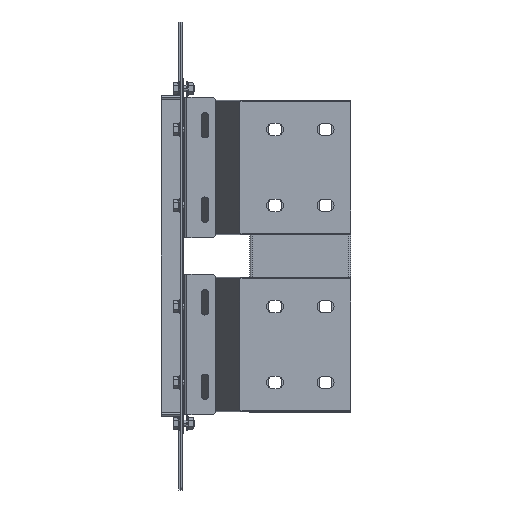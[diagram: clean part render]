
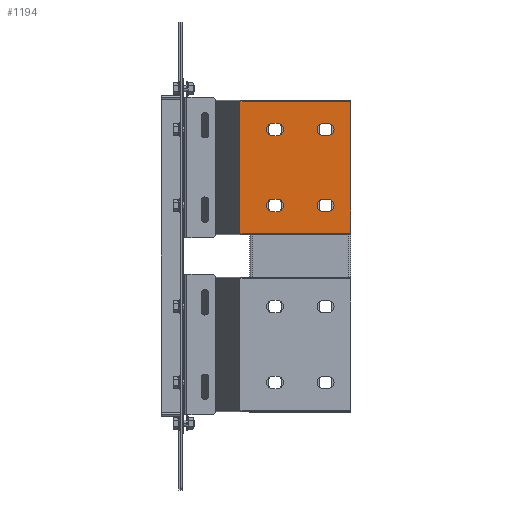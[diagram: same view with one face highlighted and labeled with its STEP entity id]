
A CAD part, front view. The second image highlights one B-rep face of the part: STEP entity #1194.
In plain terms, the highlighted planar face has unit normal (0, -1, 0).
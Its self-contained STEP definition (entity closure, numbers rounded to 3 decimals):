
#1018=AXIS2_PLACEMENT_3D('Circle Axis2P3D',#1016,#1017,$) ;
#1038=AXIS2_PLACEMENT_3D('Plane Axis2P3D',#1035,#1036,#1037) ;
#1076=AXIS2_PLACEMENT_3D('Circle Axis2P3D',#1074,#1075,$) ;
#1094=AXIS2_PLACEMENT_3D('Circle Axis2P3D',#1092,#1093,$) ;
#1110=AXIS2_PLACEMENT_3D('Circle Axis2P3D',#1108,#1109,$) ;
#1137=AXIS2_PLACEMENT_3D('Circle Axis2P3D',#1135,#1136,$) ;
#1151=AXIS2_PLACEMENT_3D('Circle Axis2P3D',#1149,#1150,$) ;
#1171=AXIS2_PLACEMENT_3D('Circle Axis2P3D',#1169,#1170,$) ;
#1185=AXIS2_PLACEMENT_3D('Circle Axis2P3D',#1183,#1184,$) ;
#982=CARTESIAN_POINT('Vertex',(112.5,-152.25,52.5)) ;
#985=CARTESIAN_POINT('Line Origine',(110.,-152.25,52.5)) ;
#989=CARTESIAN_POINT('Vertex',(107.5,-152.25,52.5)) ;
#1016=CARTESIAN_POINT('Axis2P3D Location',(107.5,-152.25,45.)) ;
#1020=CARTESIAN_POINT('Vertex',(107.5,-152.25,37.5)) ;
#1035=CARTESIAN_POINT('Axis2P3D Location',(200.,-152.25,-77.75)) ;
#1040=CARTESIAN_POINT('Line Origine',(134.254,-152.25,-77.75)) ;
#1044=CARTESIAN_POINT('Vertex',(200.,-152.25,-77.75)) ;
#1046=CARTESIAN_POINT('Vertex',(68.508,-152.25,-77.75)) ;
#1049=CARTESIAN_POINT('Line Origine',(200.,-152.25,0.)) ;
#1053=CARTESIAN_POINT('Vertex',(200.,-152.25,77.75)) ;
#1056=CARTESIAN_POINT('Line Origine',(134.254,-152.25,77.75)) ;
#1060=CARTESIAN_POINT('Vertex',(68.508,-152.25,77.75)) ;
#1063=CARTESIAN_POINT('Line Origine',(68.508,-152.25,0.)) ;
#1074=CARTESIAN_POINT('Axis2P3D Location',(112.5,-152.25,45.)) ;
#1078=CARTESIAN_POINT('Vertex',(112.5,-152.25,37.5)) ;
#1081=CARTESIAN_POINT('Line Origine',(110.,-152.25,37.5)) ;
#1092=CARTESIAN_POINT('Axis2P3D Location',(167.5,-152.25,45.)) ;
#1096=CARTESIAN_POINT('Vertex',(167.5,-152.25,52.5)) ;
#1098=CARTESIAN_POINT('Vertex',(167.5,-152.25,37.5)) ;
#1101=CARTESIAN_POINT('Line Origine',(170.,-152.25,52.5)) ;
#1105=CARTESIAN_POINT('Vertex',(172.5,-152.25,52.5)) ;
#1108=CARTESIAN_POINT('Axis2P3D Location',(172.5,-152.25,45.)) ;
#1112=CARTESIAN_POINT('Vertex',(172.5,-152.25,37.5)) ;
#1115=CARTESIAN_POINT('Line Origine',(170.,-152.25,37.5)) ;
#1126=CARTESIAN_POINT('Line Origine',(110.,-152.25,-52.5)) ;
#1130=CARTESIAN_POINT('Vertex',(107.5,-152.25,-52.5)) ;
#1132=CARTESIAN_POINT('Vertex',(112.5,-152.25,-52.5)) ;
#1135=CARTESIAN_POINT('Axis2P3D Location',(107.5,-152.25,-45.)) ;
#1139=CARTESIAN_POINT('Vertex',(107.5,-152.25,-37.5)) ;
#1142=CARTESIAN_POINT('Line Origine',(110.,-152.25,-37.5)) ;
#1146=CARTESIAN_POINT('Vertex',(112.5,-152.25,-37.5)) ;
#1149=CARTESIAN_POINT('Axis2P3D Location',(112.5,-152.25,-45.)) ;
#1160=CARTESIAN_POINT('Line Origine',(170.,-152.25,-37.5)) ;
#1164=CARTESIAN_POINT('Vertex',(172.5,-152.25,-37.5)) ;
#1166=CARTESIAN_POINT('Vertex',(167.5,-152.25,-37.5)) ;
#1169=CARTESIAN_POINT('Axis2P3D Location',(172.5,-152.25,-45.)) ;
#1173=CARTESIAN_POINT('Vertex',(172.5,-152.25,-52.5)) ;
#1176=CARTESIAN_POINT('Line Origine',(170.,-152.25,-52.5)) ;
#1180=CARTESIAN_POINT('Vertex',(167.5,-152.25,-52.5)) ;
#1183=CARTESIAN_POINT('Axis2P3D Location',(167.5,-152.25,-45.)) ;
#986=DIRECTION('Vector Direction',(1.,0.,0.)) ;
#1017=DIRECTION('Axis2P3D Direction',(0.,-1.,0.)) ;
#1036=DIRECTION('Axis2P3D Direction',(0.,-1.,0.)) ;
#1037=DIRECTION('Axis2P3D XDirection',(0.,0.,1.)) ;
#1041=DIRECTION('Vector Direction',(-1.,0.,0.)) ;
#1050=DIRECTION('Vector Direction',(0.,0.,1.)) ;
#1057=DIRECTION('Vector Direction',(-1.,0.,0.)) ;
#1064=DIRECTION('Vector Direction',(0.,0.,1.)) ;
#1075=DIRECTION('Axis2P3D Direction',(0.,-1.,0.)) ;
#1082=DIRECTION('Vector Direction',(-1.,0.,0.)) ;
#1093=DIRECTION('Axis2P3D Direction',(0.,-1.,0.)) ;
#1102=DIRECTION('Vector Direction',(-1.,0.,0.)) ;
#1109=DIRECTION('Axis2P3D Direction',(0.,-1.,0.)) ;
#1116=DIRECTION('Vector Direction',(1.,0.,0.)) ;
#1127=DIRECTION('Vector Direction',(1.,0.,0.)) ;
#1136=DIRECTION('Axis2P3D Direction',(0.,-1.,0.)) ;
#1143=DIRECTION('Vector Direction',(-1.,0.,0.)) ;
#1150=DIRECTION('Axis2P3D Direction',(0.,-1.,0.)) ;
#1161=DIRECTION('Vector Direction',(1.,0.,0.)) ;
#1170=DIRECTION('Axis2P3D Direction',(0.,-1.,0.)) ;
#1177=DIRECTION('Vector Direction',(-1.,0.,0.)) ;
#1184=DIRECTION('Axis2P3D Direction',(0.,-1.,0.)) ;
#987=VECTOR('Line Direction',#986,1.) ;
#1042=VECTOR('Line Direction',#1041,1.) ;
#1051=VECTOR('Line Direction',#1050,1.) ;
#1058=VECTOR('Line Direction',#1057,1.) ;
#1065=VECTOR('Line Direction',#1064,1.) ;
#1083=VECTOR('Line Direction',#1082,1.) ;
#1103=VECTOR('Line Direction',#1102,1.) ;
#1117=VECTOR('Line Direction',#1116,1.) ;
#1128=VECTOR('Line Direction',#1127,1.) ;
#1144=VECTOR('Line Direction',#1143,1.) ;
#1162=VECTOR('Line Direction',#1161,1.) ;
#1178=VECTOR('Line Direction',#1177,1.) ;
#1069=ORIENTED_EDGE('',*,*,#1048,.F.) ;
#1070=ORIENTED_EDGE('',*,*,#1055,.F.) ;
#1071=ORIENTED_EDGE('',*,*,#1062,.T.) ;
#1072=ORIENTED_EDGE('',*,*,#1067,.F.) ;
#1087=ORIENTED_EDGE('',*,*,#1080,.F.) ;
#1088=ORIENTED_EDGE('',*,*,#1085,.F.) ;
#1089=ORIENTED_EDGE('',*,*,#1022,.F.) ;
#1090=ORIENTED_EDGE('',*,*,#991,.F.) ;
#1121=ORIENTED_EDGE('',*,*,#1100,.F.) ;
#1122=ORIENTED_EDGE('',*,*,#1107,.F.) ;
#1123=ORIENTED_EDGE('',*,*,#1114,.F.) ;
#1124=ORIENTED_EDGE('',*,*,#1119,.F.) ;
#1155=ORIENTED_EDGE('',*,*,#1134,.F.) ;
#1156=ORIENTED_EDGE('',*,*,#1141,.F.) ;
#1157=ORIENTED_EDGE('',*,*,#1148,.F.) ;
#1158=ORIENTED_EDGE('',*,*,#1153,.F.) ;
#1189=ORIENTED_EDGE('',*,*,#1168,.F.) ;
#1190=ORIENTED_EDGE('',*,*,#1175,.F.) ;
#1191=ORIENTED_EDGE('',*,*,#1182,.F.) ;
#1192=ORIENTED_EDGE('',*,*,#1187,.F.) ;
#1091=FACE_BOUND('',#1086,.T.) ;
#1125=FACE_BOUND('',#1120,.T.) ;
#1159=FACE_BOUND('',#1154,.T.) ;
#1193=FACE_BOUND('',#1188,.T.) ;
#1194=ADVANCED_FACE('N',(#1073,#1091,#1125,#1159,#1193),#1039,.T.) ;
#1019=CIRCLE('generated circle',#1018,7.5) ;
#1077=CIRCLE('generated circle',#1076,7.5) ;
#1095=CIRCLE('generated circle',#1094,7.5) ;
#1111=CIRCLE('generated circle',#1110,7.5) ;
#1138=CIRCLE('generated circle',#1137,7.5) ;
#1152=CIRCLE('generated circle',#1151,7.5) ;
#1172=CIRCLE('generated circle',#1171,7.5) ;
#1186=CIRCLE('generated circle',#1185,7.5) ;
#991=EDGE_CURVE('',#983,#990,#988,.F.) ;
#1022=EDGE_CURVE('',#990,#1021,#1019,.T.) ;
#1048=EDGE_CURVE('',#1045,#1047,#1043,.T.) ;
#1055=EDGE_CURVE('',#1054,#1045,#1052,.F.) ;
#1062=EDGE_CURVE('',#1054,#1061,#1059,.T.) ;
#1067=EDGE_CURVE('',#1047,#1061,#1066,.T.) ;
#1080=EDGE_CURVE('',#1079,#983,#1077,.T.) ;
#1085=EDGE_CURVE('',#1021,#1079,#1084,.F.) ;
#1100=EDGE_CURVE('',#1097,#1099,#1095,.T.) ;
#1107=EDGE_CURVE('',#1106,#1097,#1104,.T.) ;
#1114=EDGE_CURVE('',#1113,#1106,#1111,.T.) ;
#1119=EDGE_CURVE('',#1099,#1113,#1118,.T.) ;
#1134=EDGE_CURVE('',#1131,#1133,#1129,.T.) ;
#1141=EDGE_CURVE('',#1140,#1131,#1138,.T.) ;
#1148=EDGE_CURVE('',#1147,#1140,#1145,.T.) ;
#1153=EDGE_CURVE('',#1133,#1147,#1152,.T.) ;
#1168=EDGE_CURVE('',#1165,#1167,#1163,.F.) ;
#1175=EDGE_CURVE('',#1174,#1165,#1172,.T.) ;
#1182=EDGE_CURVE('',#1181,#1174,#1179,.F.) ;
#1187=EDGE_CURVE('',#1167,#1181,#1186,.T.) ;
#1068=EDGE_LOOP('',(#1069,#1070,#1071,#1072)) ;
#1086=EDGE_LOOP('',(#1087,#1088,#1089,#1090)) ;
#1120=EDGE_LOOP('',(#1121,#1122,#1123,#1124)) ;
#1154=EDGE_LOOP('',(#1155,#1156,#1157,#1158)) ;
#1188=EDGE_LOOP('',(#1189,#1190,#1191,#1192)) ;
#1073=FACE_OUTER_BOUND('',#1068,.T.) ;
#988=LINE('Line',#985,#987) ;
#1043=LINE('Line',#1040,#1042) ;
#1052=LINE('Line',#1049,#1051) ;
#1059=LINE('Line',#1056,#1058) ;
#1066=LINE('Line',#1063,#1065) ;
#1084=LINE('Line',#1081,#1083) ;
#1104=LINE('Line',#1101,#1103) ;
#1118=LINE('Line',#1115,#1117) ;
#1129=LINE('Line',#1126,#1128) ;
#1145=LINE('Line',#1142,#1144) ;
#1163=LINE('Line',#1160,#1162) ;
#1179=LINE('Line',#1176,#1178) ;
#1039=PLANE('',#1038) ;
#983=VERTEX_POINT('',#982) ;
#990=VERTEX_POINT('',#989) ;
#1021=VERTEX_POINT('',#1020) ;
#1045=VERTEX_POINT('',#1044) ;
#1047=VERTEX_POINT('',#1046) ;
#1054=VERTEX_POINT('',#1053) ;
#1061=VERTEX_POINT('',#1060) ;
#1079=VERTEX_POINT('',#1078) ;
#1097=VERTEX_POINT('',#1096) ;
#1099=VERTEX_POINT('',#1098) ;
#1106=VERTEX_POINT('',#1105) ;
#1113=VERTEX_POINT('',#1112) ;
#1131=VERTEX_POINT('',#1130) ;
#1133=VERTEX_POINT('',#1132) ;
#1140=VERTEX_POINT('',#1139) ;
#1147=VERTEX_POINT('',#1146) ;
#1165=VERTEX_POINT('',#1164) ;
#1167=VERTEX_POINT('',#1166) ;
#1174=VERTEX_POINT('',#1173) ;
#1181=VERTEX_POINT('',#1180) ;
